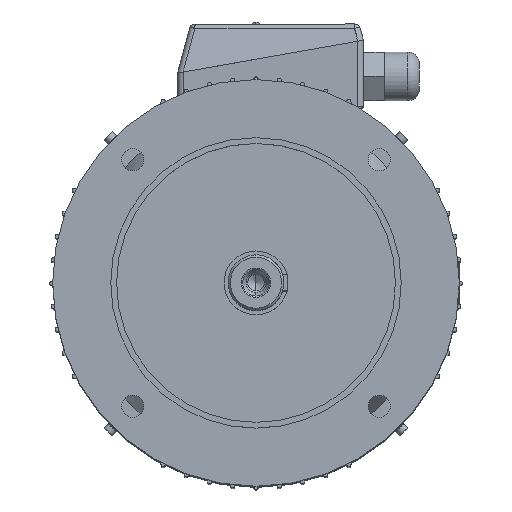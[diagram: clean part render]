
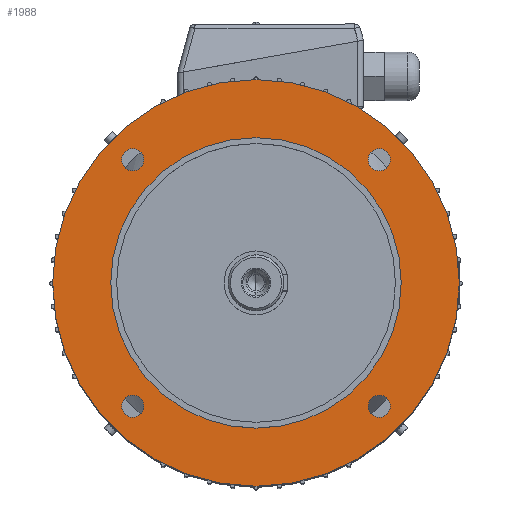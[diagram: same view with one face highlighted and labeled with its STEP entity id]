
A CAD part, top view. The second image highlights one B-rep face of the part: STEP entity #1988.
In plain terms, the highlighted planar face has unit normal (0, 0, 1).
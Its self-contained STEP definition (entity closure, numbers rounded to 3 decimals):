
#123 = EDGE_LOOP ( 'NONE', ( #12055, #12327 ) ) ;
#361 = EDGE_CURVE ( 'NONE', #3740, #4924, #10391, .T. ) ;
#703 = VERTEX_POINT ( 'NONE', #10557 ) ;
#858 = CARTESIAN_POINT ( 'NONE',  ( -96.566, -106.066, 81. ) ) ;
#937 = EDGE_CURVE ( 'NONE', #1924, #703, #10635, .T. ) ;
#983 = CIRCLE ( 'NONE', #984, 9.5 ) ;
#984 = AXIS2_PLACEMENT_3D ( 'NONE', #985, #986, #987 ) ;
#985 = CARTESIAN_POINT ( 'NONE',  ( -106.066, -106.066, 81. ) ) ;
#986 = DIRECTION ( 'NONE',  ( 0., 0., 1. ) ) ;
#987 = DIRECTION ( 'NONE',  ( 1., 0., 0. ) ) ;
#1723 = EDGE_LOOP ( 'NONE', ( #8123, #3823 ) ) ;
#1924 = VERTEX_POINT ( 'NONE', #11115 ) ;
#1988 = ADVANCED_FACE ( 'NONE', ( #11147, #11148, #11149, #11150, #11151, #11152 ), #11153, .F. ) ;
#2136 = CIRCLE ( 'NONE', #2137, 9.5 ) ;
#2137 = AXIS2_PLACEMENT_3D ( 'NONE', #2138, #2139, #2140 ) ;
#2138 = CARTESIAN_POINT ( 'NONE',  ( -106.066, 106.066, 81. ) ) ;
#2139 = DIRECTION ( 'NONE',  ( 0., 0., 1. ) ) ;
#2140 = DIRECTION ( 'NONE',  ( 1., 0., 0. ) ) ;
#2176 = CIRCLE ( 'NONE', #2177, 9.5 ) ;
#2177 = AXIS2_PLACEMENT_3D ( 'NONE', #2178, #2179, #2180 ) ;
#2178 = CARTESIAN_POINT ( 'NONE',  ( 106.066, 106.066, 81. ) ) ;
#2179 = DIRECTION ( 'NONE',  ( 0., 0., 1. ) ) ;
#2180 = DIRECTION ( 'NONE',  ( 1., 0., 0. ) ) ;
#2671 = ORIENTED_EDGE ( 'NONE', *, *, #8799, .F. ) ;
#3094 = CARTESIAN_POINT ( 'NONE',  ( -115.566, -106.066, 81. ) ) ;
#3244 = EDGE_LOOP ( 'NONE', ( #2671, #10152 ) ) ;
#3605 = EDGE_LOOP ( 'NONE', ( #9284, #9517 ) ) ;
#3740 = VERTEX_POINT ( 'NONE', #11965 ) ;
#3823 = ORIENTED_EDGE ( 'NONE', *, *, #9052, .F. ) ;
#3978 = EDGE_CURVE ( 'NONE', #4924, #3740, #12047, .T. ) ;
#4359 = CARTESIAN_POINT ( 'NONE',  ( 125., 0., 81. ) ) ;
#4514 = CIRCLE ( 'NONE', #4515, 125. ) ;
#4515 = AXIS2_PLACEMENT_3D ( 'NONE', #4516, #4517, #4518 ) ;
#4516 = CARTESIAN_POINT ( 'NONE',  ( 0., 0., 81. ) ) ;
#4517 = DIRECTION ( 'NONE',  ( 0., 0., 1. ) ) ;
#4518 = DIRECTION ( 'NONE',  ( 1., 0., 0. ) ) ;
#4849 = CARTESIAN_POINT ( 'NONE',  ( 175., 0., 81. ) ) ;
#4920 = CARTESIAN_POINT ( 'NONE',  ( 115.566, 106.066, 81. ) ) ;
#4924 = VERTEX_POINT ( 'NONE', #12480 ) ;
#5051 = CIRCLE ( 'NONE', #5052, 9.5 ) ;
#5052 = AXIS2_PLACEMENT_3D ( 'NONE', #5053, #5054, #5055 ) ;
#5053 = CARTESIAN_POINT ( 'NONE',  ( 106.066, 106.066, 81. ) ) ;
#5054 = DIRECTION ( 'NONE',  ( 0., 0., 1. ) ) ;
#5055 = DIRECTION ( 'NONE',  ( 1., 0., 0. ) ) ;
#5487 = CIRCLE ( 'NONE', #5488, 9.5 ) ;
#5488 = AXIS2_PLACEMENT_3D ( 'NONE', #5489, #5490, #5491 ) ;
#5489 = CARTESIAN_POINT ( 'NONE',  ( -106.066, -106.066, 81. ) ) ;
#5490 = DIRECTION ( 'NONE',  ( 0., 0., 1. ) ) ;
#5491 = DIRECTION ( 'NONE',  ( 1., 0., 0. ) ) ;
#5564 = CARTESIAN_POINT ( 'NONE',  ( 96.566, 106.066, 81. ) ) ;
#5858 = CIRCLE ( 'NONE', #5859, 175. ) ;
#5859 = AXIS2_PLACEMENT_3D ( 'NONE', #5860, #5861, #5862 ) ;
#5860 = CARTESIAN_POINT ( 'NONE',  ( 0., 0., 81. ) ) ;
#5861 = DIRECTION ( 'NONE',  ( 0., 0., 1. ) ) ;
#5862 = DIRECTION ( 'NONE',  ( 1., 0., 0. ) ) ;
#6555 = CIRCLE ( 'NONE', #6556, 175. ) ;
#6556 = AXIS2_PLACEMENT_3D ( 'NONE', #6557, #6558, #6559 ) ;
#6557 = CARTESIAN_POINT ( 'NONE',  ( 0., 0., 81. ) ) ;
#6558 = DIRECTION ( 'NONE',  ( 0., 0., 1. ) ) ;
#6559 = DIRECTION ( 'NONE',  ( 1., 0., 0. ) ) ;
#6754 = VERTEX_POINT ( 'NONE', #858 ) ;
#7000 = EDGE_CURVE ( 'NONE', #11868, #6754, #983, .T. ) ;
#7071 = CARTESIAN_POINT ( 'NONE',  ( -175., 0., 81. ) ) ;
#7411 = CIRCLE ( 'NONE', #7412, 125. ) ;
#7412 = AXIS2_PLACEMENT_3D ( 'NONE', #7413, #7414, #7415 ) ;
#7413 = CARTESIAN_POINT ( 'NONE',  ( 0., 0., 81. ) ) ;
#7414 = DIRECTION ( 'NONE',  ( 0., 0., 1. ) ) ;
#7415 = DIRECTION ( 'NONE',  ( 1., 0., 0. ) ) ;
#7631 = CARTESIAN_POINT ( 'NONE',  ( -125., 0., 81. ) ) ;
#8055 = EDGE_CURVE ( 'NONE', #8997, #9283, #2176, .T. ) ;
#8123 = ORIENTED_EDGE ( 'NONE', *, *, #8055, .F. ) ;
#8739 = VERTEX_POINT ( 'NONE', #4359 ) ;
#8799 = EDGE_CURVE ( 'NONE', #8739, #10217, #4514, .T. ) ;
#8962 = VERTEX_POINT ( 'NONE', #4849 ) ;
#8997 = VERTEX_POINT ( 'NONE', #4920 ) ;
#9052 = EDGE_CURVE ( 'NONE', #9283, #8997, #5051, .T. ) ;
#9243 = EDGE_CURVE ( 'NONE', #6754, #11868, #5487, .T. ) ;
#9283 = VERTEX_POINT ( 'NONE', #5564 ) ;
#9284 = ORIENTED_EDGE ( 'NONE', *, *, #9243, .F. ) ;
#9324 = EDGE_LOOP ( 'NONE', ( #9676, #9535 ) ) ;
#9435 = EDGE_CURVE ( 'NONE', #9940, #8962, #5858, .T. ) ;
#9517 = ORIENTED_EDGE ( 'NONE', *, *, #7000, .F. ) ;
#9535 = ORIENTED_EDGE ( 'NONE', *, *, #9435, .T. ) ;
#9676 = ORIENTED_EDGE ( 'NONE', *, *, #9738, .T. ) ;
#9738 = EDGE_CURVE ( 'NONE', #8962, #9940, #6555, .T. ) ;
#9940 = VERTEX_POINT ( 'NONE', #7071 ) ;
#10113 = EDGE_CURVE ( 'NONE', #10217, #8739, #7411, .T. ) ;
#10152 = ORIENTED_EDGE ( 'NONE', *, *, #10113, .F. ) ;
#10163 = ORIENTED_EDGE ( 'NONE', *, *, #937, .F. ) ;
#10217 = VERTEX_POINT ( 'NONE', #7631 ) ;
#10391 = CIRCLE ( 'NONE', #10392, 9.5 ) ;
#10392 = AXIS2_PLACEMENT_3D ( 'NONE', #10393, #10394, #10395 ) ;
#10393 = CARTESIAN_POINT ( 'NONE',  ( 106.066, -106.066, 81. ) ) ;
#10394 = DIRECTION ( 'NONE',  ( 0., 0., 1. ) ) ;
#10395 = DIRECTION ( 'NONE',  ( 1., 0., 0. ) ) ;
#10557 = CARTESIAN_POINT ( 'NONE',  ( -96.566, 106.066, 81. ) ) ;
#10635 = CIRCLE ( 'NONE', #10636, 9.5 ) ;
#10636 = AXIS2_PLACEMENT_3D ( 'NONE', #10637, #10638, #10639 ) ;
#10637 = CARTESIAN_POINT ( 'NONE',  ( -106.066, 106.066, 81. ) ) ;
#10638 = DIRECTION ( 'NONE',  ( 0., 0., 1. ) ) ;
#10639 = DIRECTION ( 'NONE',  ( 1., 0., 0. ) ) ;
#10914 = EDGE_CURVE ( 'NONE', #703, #1924, #2136, .T. ) ;
#11115 = CARTESIAN_POINT ( 'NONE',  ( -115.566, 106.066, 81. ) ) ;
#11147 = FACE_BOUND ( 'NONE', #1723, .T. ) ;
#11148 = FACE_BOUND ( 'NONE', #3605, .T. ) ;
#11149 = FACE_BOUND ( 'NONE', #3244, .T. ) ;
#11150 = FACE_OUTER_BOUND ( 'NONE', #9324, .T. ) ;
#11151 = FACE_BOUND ( 'NONE', #123, .T. ) ;
#11152 = FACE_BOUND ( 'NONE', #12080, .T. ) ;
#11153 = PLANE ( 'NONE',  #11154 ) ;
#11154 = AXIS2_PLACEMENT_3D ( 'NONE', #11155, #11156, #11161 ) ;
#11155 = CARTESIAN_POINT ( 'NONE',  ( 0., 175., 81. ) ) ;
#11156 = DIRECTION ( 'NONE',  ( 0., 0., -1. ) ) ;
#11161 = DIRECTION ( 'NONE',  ( -1., 0., 0. ) ) ;
#11315 = ORIENTED_EDGE ( 'NONE', *, *, #10914, .F. ) ;
#11868 = VERTEX_POINT ( 'NONE', #3094 ) ;
#11965 = CARTESIAN_POINT ( 'NONE',  ( 115.566, -106.066, 81. ) ) ;
#12047 = CIRCLE ( 'NONE', #12048, 9.5 ) ;
#12048 = AXIS2_PLACEMENT_3D ( 'NONE', #12049, #12050, #12051 ) ;
#12049 = CARTESIAN_POINT ( 'NONE',  ( 106.066, -106.066, 81. ) ) ;
#12050 = DIRECTION ( 'NONE',  ( 0., 0., 1. ) ) ;
#12051 = DIRECTION ( 'NONE',  ( 1., 0., 0. ) ) ;
#12055 = ORIENTED_EDGE ( 'NONE', *, *, #361, .F. ) ;
#12080 = EDGE_LOOP ( 'NONE', ( #11315, #10163 ) ) ;
#12327 = ORIENTED_EDGE ( 'NONE', *, *, #3978, .F. ) ;
#12480 = CARTESIAN_POINT ( 'NONE',  ( 96.566, -106.066, 81. ) ) ;
